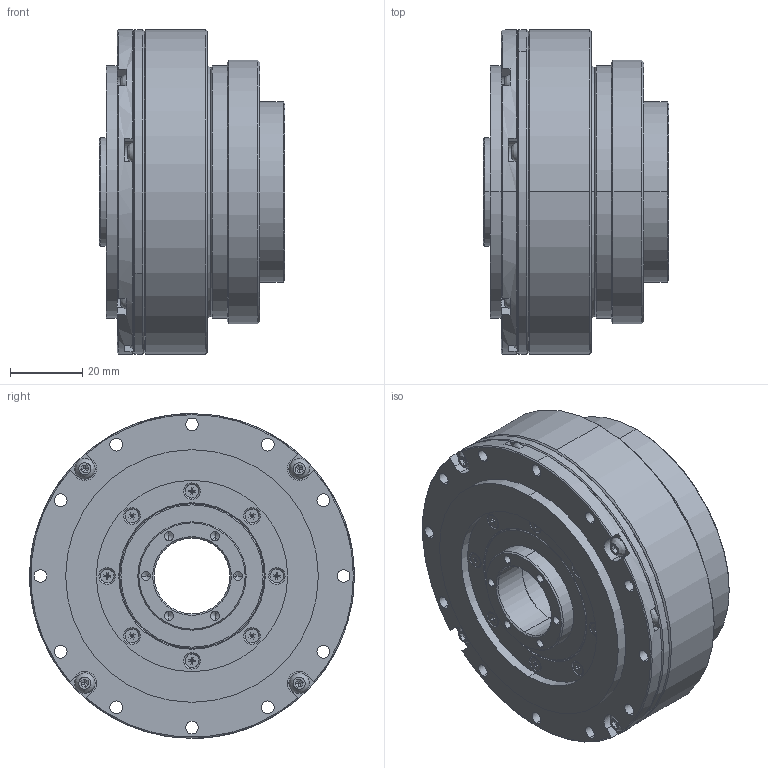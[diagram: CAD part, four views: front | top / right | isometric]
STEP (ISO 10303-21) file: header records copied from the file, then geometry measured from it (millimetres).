
FILE_DESCRIPTION (( 'STEP AP203' ), '1' );
FILE_NAME ('LHS-20-XXX-CL-III.step', '2025-01-07T06:18:28', ( '' ), ( '' ), 'SwSTEP 2.0', 'SolidWorks 2023', '' );
FILE_SCHEMA (( 'CONFIG_CONTROL_DESIGN' ));
Products named in the file (1): LHS-20-XXX-CL-III
Bounding box: 51.5 x 90 x 90 mm (x, y, z)
Volume: 172408.5 mm3; surface area: 137072 mm2
Topology: 61 solids, 61 shells, 1958 faces, 5332 edges, 3283 vertices
Faces by surface type: cylinder 613, plane 517, bspline 516, cone 312
Entity records: 74077 total; most frequent: CARTESIAN_POINT 27696, ORIENTED_EDGE 10240, DIRECTION 9107, EDGE_CURVE 5120, AXIS2_PLACEMENT_3D 3780, VERTEX_POINT 3283, CIRCLE 2337, EDGE_LOOP 2329
